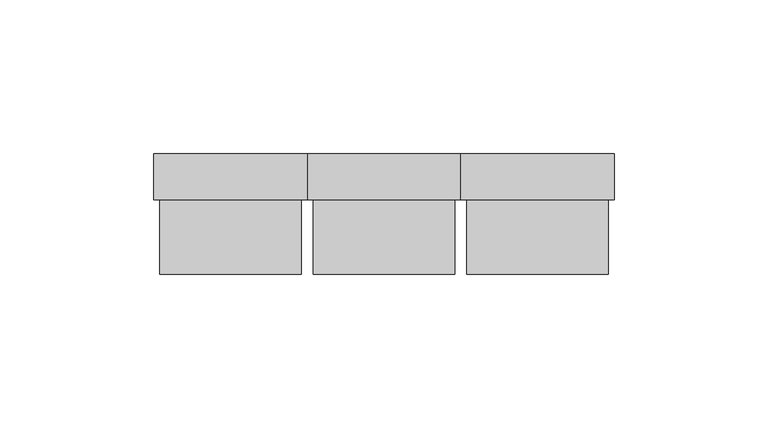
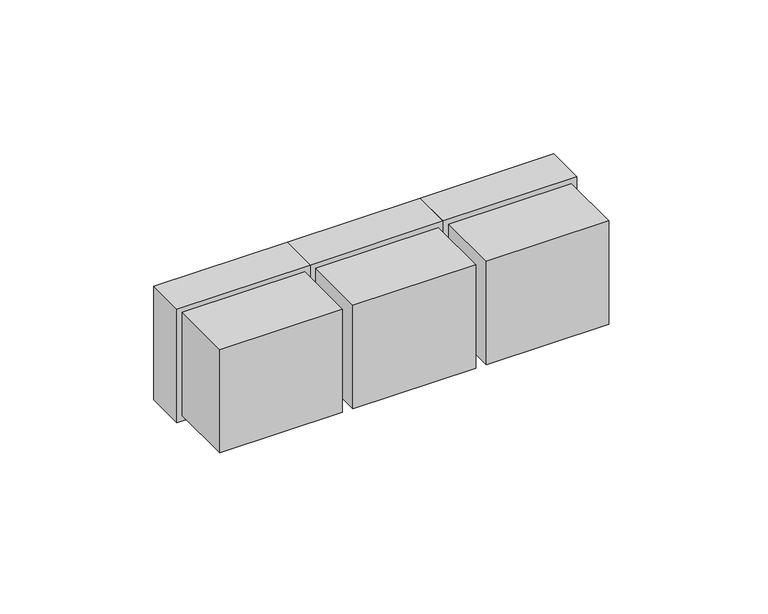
"""IFC4 building model written with IfcOpenShell, lengths in millimetres: proxy geometry, Электрические розетки, штекерные, с заземлением и со шторками, моноблок : Белый."""

from ifc_helpers import new_model, si_unit, point, frame, frame_2d, origin, place, context, project, spatial, polyline, circle_curve, trimmed, segment, composite_curve, outline, extrude, source, transform, mapped, element, save
from ifc_brep_helpers import plane_surface, revolved_surface, advanced_brep


def electrical_fixtures_686b93b9(model_context):
    return source(origin(), model_context, "Body", "SolidModel", [
        advanced_brep(
        [(27.0, 24.3, 20.5), (73.0, 24.3, 20.5), (73.0, 24.3, -20.5), (27.0, 24.3, -20.5), (43.5102806, 24.3, 0.0), (37.4435414, 24.3, 0.0), (62.5564586, 24.3, 0.0), (56.4897194, 24.3, 0.0), (27.0, 0.0, 20.5), (27.0, 0.0, -20.5), (73.0, 0.0, -20.5), (73.0, 0.0, 20.5), (43.5102806, 10.5732864, 0.0), (37.4435414, 10.5732864, 0.0), (62.5564586, 10.5732864, 0.0), (56.4897194, 10.5732864, 0.0)],
        [
            (0, 1),
            (1, 2),
            (2, 3),
            (3, 0),
            (4, 5, circle_curve(frame((40.476911, 24.3, 0.0), z_axis=(0.0, -1.0, 0.0), x_axis=(-1.0, 0.0, 0.0)), 3.0333696)),
            (5, 4, circle_curve(frame((40.476911, 24.3, 0.0), z_axis=(0.0, -1.0, 0.0), x_axis=(-1.0, 0.0, 0.0)), 3.0333696)),
            (6, 7, circle_curve(frame((59.523089, 24.3, 0.0), z_axis=(0.0, -1.0, 0.0), x_axis=(-1.0, 0.0, 0.0)), 3.0333696)),
            (7, 6, circle_curve(frame((59.523089, 24.3, 0.0), z_axis=(0.0, -1.0, 0.0), x_axis=(-1.0, 0.0, 0.0)), 3.0333696)),
            (8, 9),
            (9, 10),
            (10, 11),
            (11, 8),
            (0, 8),
            (11, 1),
            (10, 2),
            (9, 3),
            (12, 13, circle_curve(frame((40.476911, 10.5732864, 0.0), z_axis=(0.0, 1.0, 0.0), x_axis=(-1.0, 0.0, 0.0)), 3.0333696)),
            (13, 12, circle_curve(frame((40.476911, 10.5732864, 0.0), z_axis=(0.0, 1.0, 0.0), x_axis=(-1.0, 0.0, 0.0)), 3.0333696)),
            (14, 15, circle_curve(frame((59.523089, 10.5732864, 0.0), z_axis=(0.0, 1.0, 0.0), x_axis=(-1.0, 0.0, 0.0)), 3.0333696)),
            (15, 14, circle_curve(frame((59.523089, 10.5732864, 0.0), z_axis=(0.0, 1.0, 0.0), x_axis=(-1.0, 0.0, 0.0)), 3.0333696)),
            (12, 4),
            (5, 13),
            (14, 6),
            (7, 15),
        ],
        [
            plane_surface(frame((27.0, 24.3, 20.5), z_axis=(0.0, 1.0, 0.0), x_axis=(0.0, 0.0, -1.0))),
            plane_surface(frame((27.0, 0.0, 20.5), z_axis=(0.0, -1.0, 0.0), x_axis=(0.0, 0.0, 1.0))),
            plane_surface(frame((73.0, 24.3, 20.5), z_axis=(0.0, 0.0, 1.0), x_axis=(0.0, -1.0, 0.0))),
            plane_surface(frame((73.0, 24.3, -20.5), z_axis=(1.0, 0.0, 0.0), x_axis=(0.0, -1.0, 0.0))),
            plane_surface(frame((27.0, 24.3, -20.5), z_axis=(0.0, 0.0, -1.0), x_axis=(0.0, -1.0, 0.0))),
            plane_surface(frame((27.0, 24.3, 20.5), z_axis=(-1.0, 0.0, 0.0), x_axis=(0.0, -1.0, 0.0))),
            plane_surface(frame((37.4435414, 10.5732864, 0.0), z_axis=(0.0, 1.0, 0.0), x_axis=(0.0, 0.0, 1.0))),
            revolved_surface(polyline([(37.4435414, 24.3, 0.0), (37.4435414, 10.5732864, 0.0)]), (40.476911, 10.5732864, 0.0), (0.0, 1.0, 0.0)),
            revolved_surface(polyline([(56.4897194, 24.3, 0.0), (56.4897194, 10.5732864, 0.0)]), (59.523089, 0.0, 0.0), (0.0, 1.0, 0.0)),
        ],
        [
            (0, [[1, 2, 3, 4], [5, 6], [7, 8]]),
            (1, [[9, 10, 11, 12]]),
            (2, [[13, -12, 14, -1]]),
            (3, [[-14, -11, 15, -2]]),
            (4, [[-15, -10, 16, -3]]),
            (5, [[-16, -9, -13, -4]]),
            (6, [[17, 18]]),
            (6, [[19, 20]]),
            (7, [[21, -6, 22, -17]]),
            (7, [[-22, -5, -21, -18]]),
            (8, [[23, -8, 24, -19]]),
            (8, [[-24, -7, -23, -20]]),
        ],
    ),
        extrude(outline(polyline([(22.5, 25.0), (-22.5, 25.0), (-22.5, 75.0), (22.5, 75.0), (22.5, 25.0)]), holes=[composite_curve([segment(polyline([(11.9284729, 66.0533963), (2.0334595, 66.0533963), (2.0334595, 69.8963575)]), True, "CONTINUOUS"), segment(trimmed(circle_curve(frame_2d((0.0, 50.0)), 20.0), [point((2.0334595, 69.8963575))], [point((-2.0334595, 69.8963575))], True, "CARTESIAN"), True, "CONTINUOUS"), segment(polyline([(-2.0334595, 69.8963575), (-2.0334595, 66.0533963), (-11.9284729, 66.0533963)]), True, "CONTINUOUS"), segment(trimmed(circle_curve(frame_2d((0.0, 50.0)), 20.0), [point((-11.9284729, 66.0533963))], [point((-11.9284729, 33.9466037))], True, "CARTESIAN"), True, "CONTINUOUS"), segment(polyline([(-11.9284729, 33.9466037), (-2.0334595, 33.9466037), (-2.0334595, 30.1036425)]), True, "CONTINUOUS"), segment(trimmed(circle_curve(frame_2d((0.0, 50.0)), 20.0), [point((-2.0334595, 30.1036425))], [point((2.0334595, 30.1036425))], True, "CARTESIAN"), True, "CONTINUOUS"), segment(polyline([(2.0334595, 30.1036425), (2.0334595, 33.9466037), (11.9284729, 33.9466037)]), True, "CONTINUOUS"), segment(trimmed(circle_curve(frame_2d((0.0, 50.0)), 20.0), [point((11.9284729, 33.9466037))], [point((11.9284729, 66.0533963))], True, "CARTESIAN"), True, "CONTINUOUS")], self_intersect=False)]), frame((0.0, 24.3, 0.0), z_axis=(0.0, 1.0, 0.0), x_axis=(0.0, 0.0, 1.0)), (0.0, 0.0, 1.0), 15.0),
        advanced_brep(
        [(-27.0, 24.3, 20.5), (-27.0, 24.3, -20.5), (-73.0, 24.3, -20.5), (-73.0, 24.3, 20.5), (-37.4435414, 24.3, 0.0), (-43.5102806, 24.3, 0.0), (-56.4897194, 24.3, 0.0), (-62.5564586, 24.3, 0.0), (-27.0, 0.0, 20.5), (-73.0, 0.0, 20.5), (-73.0, 0.0, -20.5), (-27.0, 0.0, -20.5), (-43.5102806, 10.5732864, 0.0), (-37.4435414, 10.5732864, 0.0), (-62.5564586, 10.5732864, 0.0), (-56.4897194, 10.5732864, 0.0)],
        [
            (0, 1),
            (1, 2),
            (2, 3),
            (3, 0),
            (4, 5, circle_curve(frame((-40.476911, 24.3, 0.0), z_axis=(0.0, -1.0, 0.0), x_axis=(1.0, 0.0, 0.0)), 3.0333696)),
            (5, 4, circle_curve(frame((-40.476911, 24.3, 0.0), z_axis=(0.0, -1.0, 0.0), x_axis=(1.0, 0.0, 0.0)), 3.0333696)),
            (6, 7, circle_curve(frame((-59.523089, 24.3, 0.0), z_axis=(0.0, -1.0, 0.0), x_axis=(1.0, 0.0, 0.0)), 3.0333696)),
            (7, 6, circle_curve(frame((-59.523089, 24.3, 0.0), z_axis=(0.0, -1.0, 0.0), x_axis=(1.0, 0.0, 0.0)), 3.0333696)),
            (8, 9),
            (9, 10),
            (10, 11),
            (11, 8),
            (3, 9),
            (8, 0),
            (2, 10),
            (1, 11),
            (12, 13, circle_curve(frame((-40.476911, 10.5732864, 0.0), z_axis=(0.0, 1.0, 0.0), x_axis=(1.0, 0.0, 0.0)), 3.0333696)),
            (13, 12, circle_curve(frame((-40.476911, 10.5732864, 0.0), z_axis=(0.0, 1.0, 0.0), x_axis=(1.0, 0.0, 0.0)), 3.0333696)),
            (14, 15, circle_curve(frame((-59.523089, 10.5732864, 0.0), z_axis=(0.0, 1.0, 0.0), x_axis=(1.0, 0.0, 0.0)), 3.0333696)),
            (15, 14, circle_curve(frame((-59.523089, 10.5732864, 0.0), z_axis=(0.0, 1.0, 0.0), x_axis=(1.0, 0.0, 0.0)), 3.0333696)),
            (13, 4),
            (5, 12),
            (15, 6),
            (7, 14),
        ],
        [
            plane_surface(frame((-73.0, 24.3, 20.5), z_axis=(0.0, 1.0, 0.0), x_axis=(-1.0, 0.0, 0.0))),
            plane_surface(frame((-73.0, 0.0, 20.5), z_axis=(0.0, -1.0, 0.0), x_axis=(1.0, 0.0, 0.0))),
            plane_surface(frame((-27.0, 24.3, 20.5), z_axis=(0.0, 0.0, 1.0), x_axis=(0.0, -1.0, 0.0))),
            plane_surface(frame((-73.0, 24.3, 20.5), z_axis=(-1.0, 0.0, 0.0), x_axis=(0.0, -1.0, 0.0))),
            plane_surface(frame((-73.0, 24.3, -20.5), z_axis=(0.0, 0.0, -1.0), x_axis=(0.0, -1.0, 0.0))),
            plane_surface(frame((-27.0, 24.3, -20.5), z_axis=(1.0, 0.0, 0.0), x_axis=(0.0, -1.0, 0.0))),
            plane_surface(frame((-37.4435414, 10.5732864, 0.0), z_axis=(0.0, 1.0, 0.0), x_axis=(0.0, 0.0, -1.0))),
            revolved_surface(polyline([(-37.4435414, 24.3, 0.0), (-37.4435414, 10.5732864, 0.0)]), (-40.476911, 10.5732864, 0.0), (0.0, 1.0, 0.0)),
            revolved_surface(polyline([(-56.4897194, 24.3, 0.0), (-56.4897194, 10.5732864, 0.0)]), (-59.523089, 0.0, 0.0), (0.0, 1.0, 0.0)),
        ],
        [
            (0, [[1, 2, 3, 4], [5, 6], [7, 8]]),
            (1, [[9, 10, 11, 12]]),
            (2, [[13, -9, 14, -4]]),
            (3, [[15, -10, -13, -3]]),
            (4, [[16, -11, -15, -2]]),
            (5, [[-14, -12, -16, -1]]),
            (6, [[17, 18]]),
            (6, [[19, 20]]),
            (7, [[21, -6, 22, -18]]),
            (7, [[-22, -5, -21, -17]]),
            (8, [[23, -8, 24, -20]]),
            (8, [[-24, -7, -23, -19]]),
        ],
    ),
        extrude(outline(polyline([(22.5, -25.0), (22.5, -75.0), (-22.5, -75.0), (-22.5, -25.0), (22.5, -25.0)]), holes=[composite_curve([segment(trimmed(circle_curve(frame_2d((0.0, -50.0)), 20.0), [point((11.9284729, -66.0533963))], [point((11.9284729, -33.9466037))], True, "CARTESIAN"), True, "CONTINUOUS"), segment(polyline([(11.9284729, -33.9466037), (2.0334595, -33.9466037), (2.0334595, -30.1036425)]), True, "CONTINUOUS"), segment(trimmed(circle_curve(frame_2d((0.0, -50.0)), 20.0), [point((2.0334595, -30.1036425))], [point((-2.0334595, -30.1036425))], True, "CARTESIAN"), True, "CONTINUOUS"), segment(polyline([(-2.0334595, -30.1036425), (-2.0334595, -33.9466037), (-11.9284729, -33.9466037)]), True, "CONTINUOUS"), segment(trimmed(circle_curve(frame_2d((0.0, -50.0)), 20.0), [point((-11.9284729, -33.9466037))], [point((-11.9284729, -66.0533963))], True, "CARTESIAN"), True, "CONTINUOUS"), segment(polyline([(-11.9284729, -66.0533963), (-2.0334595, -66.0533963), (-2.0334595, -69.8963575)]), True, "CONTINUOUS"), segment(trimmed(circle_curve(frame_2d((0.0, -50.0)), 20.0), [point((-2.0334595, -69.8963575))], [point((2.0334595, -69.8963575))], True, "CARTESIAN"), True, "CONTINUOUS"), segment(polyline([(2.0334595, -69.8963575), (2.0334595, -66.0533963), (11.9284729, -66.0533963)]), True, "CONTINUOUS")], self_intersect=False)]), frame((0.0, 24.3, 0.0), z_axis=(0.0, 1.0, 0.0), x_axis=(0.0, 0.0, 1.0)), (0.0, 0.0, 1.0), 15.0),
        advanced_brep(
        [(16.0533963, 24.3, 11.9284729), (16.0533963, 24.3, 2.0334595), (19.8963575, 24.3, 2.0334595), (19.8963575, 24.3, -2.0334595), (16.0533963, 24.3, -2.0334595), (16.0533963, 24.3, -11.9284729), (-16.0533963, 24.3, -11.9284729), (-16.0533963, 24.3, -2.0334595), (-19.8963575, 24.3, -2.0334595), (-19.8963575, 24.3, 2.0334595), (-16.0533963, 24.3, 2.0334595), (-16.0533963, 24.3, 11.9284729), (12.5564586, 24.3, 0.0), (6.4897194, 24.3, 0.0), (-6.4897194, 24.3, 0.0), (-12.5564586, 24.3, 0.0), (23.0, 0.0, 20.5), (-23.0, 0.0, 20.5), (-23.0, 0.0, -20.5), (23.0, 0.0, -20.5), (23.0, 24.3, 20.5), (-23.0, 24.3, 20.5), (-23.0, 24.3, -20.5), (23.0, 24.3, -20.5), (6.4897194, 10.5732864, 0.0), (12.5564586, 10.5732864, 0.0), (-12.5564586, 10.5732864, 0.0), (-6.4897194, 10.5732864, 0.0), (25.0, 39.3, 22.5), (25.0, 39.3, -22.5), (-25.0, 39.3, -22.5), (-25.0, 39.3, 22.5), (-16.0533963, 39.3, 11.9284729), (-16.0533963, 39.3, 2.0334595), (-19.8963575, 39.3, 2.0334595), (-19.8963575, 39.3, -2.0334595), (-16.0533963, 39.3, -2.0334595), (-16.0533963, 39.3, -11.9284729), (16.0533963, 39.3, -11.9284729), (16.0533963, 39.3, -2.0334595), (19.8963575, 39.3, -2.0334595), (19.8963575, 39.3, 2.0334595), (16.0533963, 39.3, 2.0334595), (16.0533963, 39.3, 11.9284729), (25.0, 24.3, 22.5), (-25.0, 24.3, 22.5), (-25.0, 24.3, -22.5), (25.0, 24.3, -22.5)],
        [
            (0, 1),
            (1, 2),
            (2, 3, circle_curve(frame((0.0, 24.3, 0.0), z_axis=(0.0, 1.0, 0.0), x_axis=(1.0, 0.0, 0.0)), 20.0)),
            (3, 4),
            (4, 5),
            (5, 6, circle_curve(frame((0.0, 24.3, 0.0), z_axis=(0.0, 1.0, 0.0), x_axis=(1.0, 0.0, 0.0)), 20.0)),
            (6, 7),
            (7, 8),
            (8, 9, circle_curve(frame((0.0, 24.3, 0.0), z_axis=(0.0, 1.0, 0.0), x_axis=(1.0, 0.0, 0.0)), 20.0)),
            (9, 10),
            (10, 11),
            (11, 0, circle_curve(frame((0.0, 24.3, 0.0), z_axis=(0.0, 1.0, 0.0), x_axis=(1.0, 0.0, 0.0)), 20.0)),
            (12, 13, circle_curve(frame((9.523089, 24.3, 0.0), z_axis=(0.0, -1.0, 0.0), x_axis=(1.0, 0.0, 0.0)), 3.0333696)),
            (13, 12, circle_curve(frame((9.523089, 24.3, 0.0), z_axis=(0.0, -1.0, 0.0), x_axis=(1.0, 0.0, 0.0)), 3.0333696)),
            (14, 15, circle_curve(frame((-9.523089, 24.3, 0.0), z_axis=(0.0, -1.0, 0.0), x_axis=(1.0, 0.0, 0.0)), 3.0333696)),
            (15, 14, circle_curve(frame((-9.523089, 24.3, 0.0), z_axis=(0.0, -1.0, 0.0), x_axis=(1.0, 0.0, 0.0)), 3.0333696)),
            (16, 17),
            (17, 18),
            (18, 19),
            (19, 16),
            (16, 20),
            (20, 21),
            (21, 17),
            (21, 22),
            (22, 18),
            (22, 23),
            (23, 19),
            (23, 20),
            (24, 25, circle_curve(frame((9.523089, 10.5732864, 0.0), z_axis=(0.0, 1.0, 0.0), x_axis=(1.0, 0.0, 0.0)), 3.0333696)),
            (25, 24, circle_curve(frame((9.523089, 10.5732864, 0.0), z_axis=(0.0, 1.0, 0.0), x_axis=(1.0, 0.0, 0.0)), 3.0333696)),
            (26, 27, circle_curve(frame((-9.523089, 10.5732864, 0.0), z_axis=(0.0, 1.0, 0.0), x_axis=(1.0, 0.0, 0.0)), 3.0333696)),
            (27, 26, circle_curve(frame((-9.523089, 10.5732864, 0.0), z_axis=(0.0, 1.0, 0.0), x_axis=(1.0, 0.0, 0.0)), 3.0333696)),
            (25, 12),
            (13, 24),
            (27, 14),
            (15, 26),
            (28, 29),
            (29, 30),
            (30, 31),
            (31, 28),
            (32, 33),
            (33, 34),
            (34, 35, circle_curve(frame((0.0, 39.3, 0.0), z_axis=(0.0, -1.0, 0.0), x_axis=(1.0, 0.0, 0.0)), 20.0)),
            (35, 36),
            (36, 37),
            (37, 38, circle_curve(frame((0.0, 39.3, 0.0), z_axis=(0.0, -1.0, 0.0), x_axis=(1.0, 0.0, 0.0)), 20.0)),
            (38, 39),
            (39, 40),
            (40, 41, circle_curve(frame((0.0, 39.3, 0.0), z_axis=(0.0, -1.0, 0.0), x_axis=(1.0, 0.0, 0.0)), 20.0)),
            (41, 42),
            (42, 43),
            (43, 32, circle_curve(frame((0.0, 39.3, 0.0), z_axis=(0.0, -1.0, 0.0), x_axis=(1.0, 0.0, 0.0)), 20.0)),
            (44, 45),
            (45, 46),
            (46, 47),
            (47, 44),
            (31, 45),
            (44, 28),
            (30, 46),
            (29, 47),
            (43, 0),
            (11, 32),
            (42, 1),
            (41, 2),
            (40, 3),
            (39, 4),
            (38, 5),
            (37, 6),
            (36, 7),
            (35, 8),
            (34, 9),
            (33, 10),
        ],
        [
            plane_surface(frame((-23.0, 24.3, 20.5), z_axis=(0.0, 1.0, 0.0), x_axis=(-1.0, 0.0, 0.0))),
            plane_surface(frame((-23.0, 0.0, 20.5), z_axis=(0.0, -1.0, 0.0), x_axis=(1.0, 0.0, 0.0))),
            plane_surface(frame((23.0, 24.3, 20.5), z_axis=(0.0, 0.0, 1.0), x_axis=(0.0, -1.0, 0.0))),
            plane_surface(frame((-23.0, 24.3, 20.5), z_axis=(-1.0, 0.0, 0.0), x_axis=(0.0, -1.0, 0.0))),
            plane_surface(frame((-23.0, 24.3, -20.5), z_axis=(0.0, 0.0, -1.0), x_axis=(0.0, -1.0, 0.0))),
            plane_surface(frame((23.0, 24.3, -20.5), z_axis=(1.0, 0.0, 0.0), x_axis=(0.0, -1.0, 0.0))),
            plane_surface(frame((12.5564586, 10.5732864, 0.0), z_axis=(0.0, 1.0, 0.0), x_axis=(0.0, 0.0, -1.0))),
            revolved_surface(polyline([(12.556458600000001, 24.3, 0.0), (12.556458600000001, 10.5732864, 0.0)]), (9.523089, 10.5732864, 0.0), (0.0, 1.0, 0.0)),
            revolved_surface(polyline([(-6.4897194, 24.3, 0.0), (-6.4897194, 10.5732864, 0.0)]), (-9.523089, 0.0, 0.0), (0.0, 1.0, 0.0)),
            plane_surface(frame((-25.0, 39.3, 22.5), z_axis=(0.0, 1.0, 0.0), x_axis=(-1.0, 0.0, 0.0))),
            plane_surface(frame((-25.0, 24.3, 22.5), z_axis=(0.0, -1.0, 0.0), x_axis=(1.0, 0.0, 0.0))),
            plane_surface(frame((25.0, 39.3, 22.5), z_axis=(0.0, 0.0, 1.0), x_axis=(0.0, -1.0, 0.0))),
            plane_surface(frame((-25.0, 39.3, 22.5), z_axis=(-1.0, 0.0, 0.0), x_axis=(0.0, -1.0, 0.0))),
            plane_surface(frame((-25.0, 39.3, -22.5), z_axis=(0.0, 0.0, -1.0), x_axis=(0.0, -1.0, 0.0))),
            plane_surface(frame((25.0, 39.3, -22.5), z_axis=(1.0, 0.0, 0.0), x_axis=(0.0, -1.0, 0.0))),
            revolved_surface(polyline([(20.0, 24.3, 0.0), (20.0, 39.3, 0.0)]), (0.0, 0.0, 0.0), (0.0, -1.0, 0.0)),
            plane_surface(frame((16.0533963, 39.3, 11.9284729), z_axis=(-1.0, 0.0, 0.0), x_axis=(0.0, -1.0, 0.0))),
            plane_surface(frame((16.0533963, 39.3, 2.0334595), z_axis=(0.0, 0.0, -1.0), x_axis=(0.0, -1.0, 0.0))),
            plane_surface(frame((19.8963575, 39.3, -2.0334595), z_axis=(0.0, 0.0, 1.0), x_axis=(0.0, -1.0, 0.0))),
            plane_surface(frame((16.0533963, 39.3, -2.0334595), z_axis=(-1.0, 0.0, 0.0), x_axis=(0.0, -1.0, 0.0))),
            plane_surface(frame((-16.0533963, 39.3, -11.9284729), z_axis=(1.0, 0.0, 0.0), x_axis=(0.0, -1.0, 0.0))),
            plane_surface(frame((-16.0533963, 39.3, -2.0334595), z_axis=(0.0, 0.0, 1.0), x_axis=(0.0, -1.0, 0.0))),
            plane_surface(frame((-19.8963575, 39.3, 2.0334595), z_axis=(0.0, 0.0, -1.0), x_axis=(0.0, -1.0, 0.0))),
            plane_surface(frame((-16.0533963, 39.3, 2.0334595), z_axis=(1.0, 0.0, 0.0), x_axis=(0.0, -1.0, 0.0))),
        ],
        [
            (0, [[1, 2, 3, 4, 5, 6, 7, 8, 9, 10, 11, 12], [13, 14], [15, 16]]),
            (1, [[17, 18, 19, 20]]),
            (2, [[21, 22, 23, -17]]),
            (3, [[-23, 24, 25, -18]]),
            (4, [[-25, 26, 27, -19]]),
            (5, [[-27, 28, -21, -20]]),
            (6, [[29, 30]]),
            (6, [[31, 32]]),
            (7, [[33, -14, 34, -30]]),
            (7, [[-34, -13, -33, -29]]),
            (8, [[35, -16, 36, -32]]),
            (8, [[-36, -15, -35, -31]]),
            (9, [[37, 38, 39, 40], [41, 42, 43, 44, 45, 46, 47, 48, 49, 50, 51, 52]]),
            (10, [[53, 54, 55, 56], [-28, -26, -24, -22]]),
            (11, [[57, -53, 58, -40]]),
            (12, [[59, -54, -57, -39]]),
            (13, [[60, -55, -59, -38]]),
            (14, [[-58, -56, -60, -37]]),
            (15, [[61, -12, 62, -52]]),
            (16, [[63, -1, -61, -51]]),
            (17, [[64, -2, -63, -50]]),
            (15, [[65, -3, -64, -49]]),
            (18, [[66, -4, -65, -48]]),
            (19, [[67, -5, -66, -47]]),
            (15, [[68, -6, -67, -46]]),
            (20, [[69, -7, -68, -45]]),
            (21, [[70, -8, -69, -44]]),
            (15, [[71, -9, -70, -43]]),
            (22, [[72, -10, -71, -42]]),
            (23, [[-62, -11, -72, -41]]),
        ],
    ),
    ])


if __name__ == "__main__":
    model = new_model("IFC4")
    model_context = context("Model", 3, world=origin())
    ifc_project = project(units=[si_unit("LENGTHUNIT", "METRE", prefix="MILLI")], contexts=[model_context])
    site = spatial("IfcSite", under=ifc_project)
    building = spatial("IfcBuilding", under=site)
    placement = place(None, origin())
    electrical_fixtures_shape = electrical_fixtures_686b93b9(model_context)
    element("IfcBuildingElementProxy", 1, Name="Электрические розетки, штекерные, с заземлением и со шторками, моноблок : Белый", ObjectType="Электрические розетки, штекерные, с заземлением и со шторками, моноблок : Белый", at=placement, inside=building, context=model_context, shape_type="MappedRepresentation", body=[
        mapped(electrical_fixtures_shape, transform((0.0, 0.0, 0.0), x_axis=(1.0, 0.0, 0.0), y_axis=(0.0, 1.0, 0.0), z_axis=(0.0, 0.0, 1.0))),
    ])
    save(model, "model.ifc")
